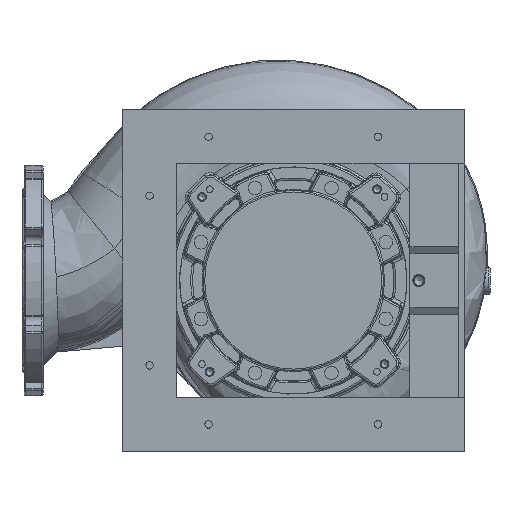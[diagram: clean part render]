
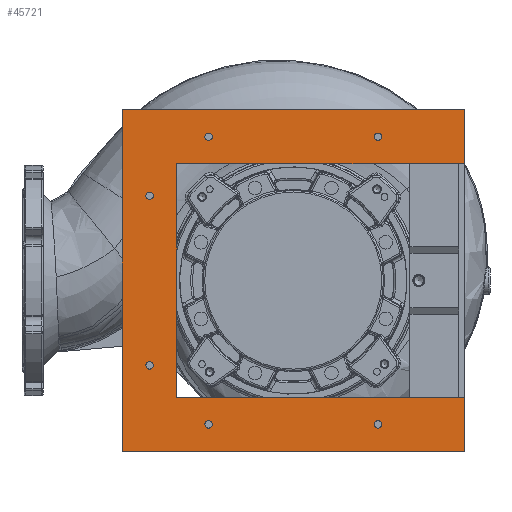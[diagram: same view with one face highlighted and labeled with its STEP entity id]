
A CAD part, front view. The second image highlights one B-rep face of the part: STEP entity #45721.
In plain terms, the highlighted planar face has unit normal (0, -1, 0).
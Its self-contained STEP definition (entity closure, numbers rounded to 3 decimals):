
#643 = CIRCLE ( 'NONE', #92111, 5.5 ) ;
#2505 = DIRECTION ( 'NONE',  ( 0., 0., -1. ) ) ;
#3228 = LINE ( 'NONE', #110618, #114989 ) ;
#4899 = DIRECTION ( 'NONE',  ( 1., 0., 0. ) ) ;
#4926 = EDGE_CURVE ( 'NONE', #72179, #86363, #145058, .T. ) ;
#7499 = ORIENTED_EDGE ( 'NONE', *, *, #65552, .F. ) ;
#7875 = EDGE_CURVE ( 'NONE', #15464, #72179, #76066, .T. ) ;
#9074 = EDGE_LOOP ( 'NONE', ( #16044 ) ) ;
#9565 = EDGE_LOOP ( 'NONE', ( #79649 ) ) ;
#10683 = LINE ( 'NONE', #90356, #34082 ) ;
#11156 = EDGE_CURVE ( 'NONE', #105550, #80376, #132371, .T. ) ;
#12609 = EDGE_CURVE ( 'NONE', #90436, #90436, #83458, .T. ) ;
#13448 = CARTESIAN_POINT ( 'NONE',  ( 252., 0., -252. ) ) ;
#13961 = FACE_BOUND ( 'NONE', #62158, .T. ) ;
#14471 = CARTESIAN_POINT ( 'NONE',  ( -252., 0., 0. ) ) ;
#15464 = VERTEX_POINT ( 'NONE', #32299 ) ;
#15956 = DIRECTION ( 'NONE',  ( 0., 0., 1. ) ) ;
#16044 = ORIENTED_EDGE ( 'NONE', *, *, #115570, .F. ) ;
#16767 = AXIS2_PLACEMENT_3D ( 'NONE', #136750, #138216, #101997 ) ;
#17933 = CARTESIAN_POINT ( 'NONE',  ( -212., 0., -130.5 ) ) ;
#19720 = VERTEX_POINT ( 'NONE', #145342 ) ;
#20371 = CIRCLE ( 'NONE', #16767, 5.5 ) ;
#21891 = EDGE_LOOP ( 'NONE', ( #61205 ) ) ;
#23196 = CIRCLE ( 'NONE', #135055, 5.5 ) ;
#25912 = CARTESIAN_POINT ( 'NONE',  ( -125., 0., -217.5 ) ) ;
#26584 = CARTESIAN_POINT ( 'NONE',  ( 0., 0., 172. ) ) ;
#28497 = CARTESIAN_POINT ( 'NONE',  ( 0., 0., -172. ) ) ;
#30226 = DIRECTION ( 'NONE',  ( 0., 0., -1. ) ) ;
#30708 = DIRECTION ( 'NONE',  ( 0., -1., 0. ) ) ;
#31887 = FACE_BOUND ( 'NONE', #21891, .T. ) ;
#32299 = CARTESIAN_POINT ( 'NONE',  ( 252., 0., 252. ) ) ;
#33529 = CARTESIAN_POINT ( 'NONE',  ( -125., 0., -212. ) ) ;
#34082 = VECTOR ( 'NONE', #135274, 1000. ) ;
#35545 = EDGE_LOOP ( 'NONE', ( #148531 ) ) ;
#36181 = DIRECTION ( 'NONE',  ( -1., 0., 0. ) ) ;
#36695 = DIRECTION ( 'NONE',  ( 0., -1., 0. ) ) ;
#37498 = ORIENTED_EDGE ( 'NONE', *, *, #59441, .F. ) ;
#38454 = EDGE_CURVE ( 'NONE', #57590, #105550, #93665, .T. ) ;
#38506 = AXIS2_PLACEMENT_3D ( 'NONE', #120430, #131938, #86083 ) ;
#39524 = EDGE_LOOP ( 'NONE', ( #78787 ) ) ;
#41778 = VECTOR ( 'NONE', #61503, 1000. ) ;
#42035 = DIRECTION ( 'NONE',  ( 0., 0., -1. ) ) ;
#45602 = CARTESIAN_POINT ( 'NONE',  ( -212., 0., 119.5 ) ) ;
#45721 = ADVANCED_FACE ( 'NONE', ( #13961, #31887, #66295, #145631, #80671, #91514, #50054 ), #57858, .F. ) ;
#47775 = DIRECTION ( 'NONE',  ( 0., 1., 0. ) ) ;
#47780 = EDGE_CURVE ( 'NONE', #86363, #118841, #3228, .T. ) ;
#49791 = EDGE_CURVE ( 'NONE', #80376, #15464, #98390, .T. ) ;
#50054 = FACE_OUTER_BOUND ( 'NONE', #138028, .T. ) ;
#53736 = EDGE_CURVE ( 'NONE', #124658, #124658, #105202, .T. ) ;
#54088 = CARTESIAN_POINT ( 'NONE',  ( 252., 0., -172. ) ) ;
#55530 = ORIENTED_EDGE ( 'NONE', *, *, #11156, .F. ) ;
#55758 = VECTOR ( 'NONE', #36181, 1000. ) ;
#56782 = DIRECTION ( 'NONE',  ( 0., -1., 0. ) ) ;
#57590 = VERTEX_POINT ( 'NONE', #126301 ) ;
#57858 = PLANE ( 'NONE',  #85176 ) ;
#59441 = EDGE_CURVE ( 'NONE', #148984, #57590, #10683, .T. ) ;
#59966 = CARTESIAN_POINT ( 'NONE',  ( 0., 0., -252. ) ) ;
#60340 = VECTOR ( 'NONE', #62950, 1000. ) ;
#60382 = CIRCLE ( 'NONE', #136102, 5.5 ) ;
#61205 = ORIENTED_EDGE ( 'NONE', *, *, #147872, .F. ) ;
#61252 = CARTESIAN_POINT ( 'NONE',  ( -125., 0., 212. ) ) ;
#61503 = DIRECTION ( 'NONE',  ( 0., 0., -1. ) ) ;
#62158 = EDGE_LOOP ( 'NONE', ( #7499 ) ) ;
#62950 = DIRECTION ( 'NONE',  ( -1., 0., 0. ) ) ;
#65552 = EDGE_CURVE ( 'NONE', #146311, #146311, #23196, .T. ) ;
#65691 = CARTESIAN_POINT ( 'NONE',  ( -252., 0., -252. ) ) ;
#66295 = FACE_BOUND ( 'NONE', #9565, .T. ) ;
#70379 = DIRECTION ( 'NONE',  ( 0., 0., -1. ) ) ;
#72179 = VERTEX_POINT ( 'NONE', #80788 ) ;
#74073 = ORIENTED_EDGE ( 'NONE', *, *, #38454, .F. ) ;
#75172 = ORIENTED_EDGE ( 'NONE', *, *, #49791, .F. ) ;
#76066 = LINE ( 'NONE', #95750, #41778 ) ;
#78575 = DIRECTION ( 'NONE',  ( 1., 0., 0. ) ) ;
#78787 = ORIENTED_EDGE ( 'NONE', *, *, #12609, .F. ) ;
#79649 = ORIENTED_EDGE ( 'NONE', *, *, #53736, .F. ) ;
#80376 = VERTEX_POINT ( 'NONE', #117021 ) ;
#80671 = FACE_BOUND ( 'NONE', #9074, .T. ) ;
#80788 = CARTESIAN_POINT ( 'NONE',  ( 252., 0., 172. ) ) ;
#82931 = CARTESIAN_POINT ( 'NONE',  ( 125., 0., -217.5 ) ) ;
#83458 = CIRCLE ( 'NONE', #135538, 5.5 ) ;
#85176 = AXIS2_PLACEMENT_3D ( 'NONE', #13448, #47775, #138505 ) ;
#85493 = VECTOR ( 'NONE', #15956, 1000. ) ;
#85792 = EDGE_CURVE ( 'NONE', #118841, #148984, #103654, .T. ) ;
#86083 = DIRECTION ( 'NONE',  ( 0., 0., -1. ) ) ;
#86363 = VERTEX_POINT ( 'NONE', #125623 ) ;
#88366 = VERTEX_POINT ( 'NONE', #82931 ) ;
#89182 = VECTOR ( 'NONE', #4899, 1000. ) ;
#90356 = CARTESIAN_POINT ( 'NONE',  ( 252., 0., 0. ) ) ;
#90436 = VERTEX_POINT ( 'NONE', #17933 ) ;
#91514 = FACE_BOUND ( 'NONE', #35545, .T. ) ;
#92111 = AXIS2_PLACEMENT_3D ( 'NONE', #33529, #56782, #70379 ) ;
#93665 = LINE ( 'NONE', #59966, #55758 ) ;
#95750 = CARTESIAN_POINT ( 'NONE',  ( 252., 0., 0. ) ) ;
#98390 = LINE ( 'NONE', #148094, #103840 ) ;
#101997 = DIRECTION ( 'NONE',  ( 0., 0., -1. ) ) ;
#103654 = LINE ( 'NONE', #28497, #89182 ) ;
#103840 = VECTOR ( 'NONE', #78575, 1000. ) ;
#104155 = CARTESIAN_POINT ( 'NONE',  ( -125., 0., 206.5 ) ) ;
#105057 = EDGE_CURVE ( 'NONE', #129922, #129922, #643, .T. ) ;
#105202 = CIRCLE ( 'NONE', #38506, 5.5 ) ;
#105550 = VERTEX_POINT ( 'NONE', #65691 ) ;
#105871 = CARTESIAN_POINT ( 'NONE',  ( 125., 0., -212. ) ) ;
#109079 = DIRECTION ( 'NONE',  ( 0., -1., 0. ) ) ;
#110618 = CARTESIAN_POINT ( 'NONE',  ( -172., 0., 0. ) ) ;
#114989 = VECTOR ( 'NONE', #42035, 1000. ) ;
#115570 = EDGE_CURVE ( 'NONE', #88366, #88366, #60382, .T. ) ;
#117021 = CARTESIAN_POINT ( 'NONE',  ( -252., 0., 252. ) ) ;
#117267 = ORIENTED_EDGE ( 'NONE', *, *, #85792, .F. ) ;
#118841 = VERTEX_POINT ( 'NONE', #149324 ) ;
#120430 = CARTESIAN_POINT ( 'NONE',  ( -212., 0., 125. ) ) ;
#124658 = VERTEX_POINT ( 'NONE', #45602 ) ;
#125623 = CARTESIAN_POINT ( 'NONE',  ( -172., 0., 172. ) ) ;
#126301 = CARTESIAN_POINT ( 'NONE',  ( 252., 0., -252. ) ) ;
#129922 = VERTEX_POINT ( 'NONE', #25912 ) ;
#131039 = ORIENTED_EDGE ( 'NONE', *, *, #4926, .F. ) ;
#131938 = DIRECTION ( 'NONE',  ( 0., -1., 0. ) ) ;
#132371 = LINE ( 'NONE', #14471, #85493 ) ;
#134119 = CARTESIAN_POINT ( 'NONE',  ( -212., 0., -125. ) ) ;
#134652 = ORIENTED_EDGE ( 'NONE', *, *, #7875, .F. ) ;
#135055 = AXIS2_PLACEMENT_3D ( 'NONE', #61252, #109079, #141873 ) ;
#135274 = DIRECTION ( 'NONE',  ( 0., 0., -1. ) ) ;
#135538 = AXIS2_PLACEMENT_3D ( 'NONE', #134119, #30708, #30226 ) ;
#136102 = AXIS2_PLACEMENT_3D ( 'NONE', #105871, #36695, #2505 ) ;
#136750 = CARTESIAN_POINT ( 'NONE',  ( 125., 0., 212. ) ) ;
#138028 = EDGE_LOOP ( 'NONE', ( #143202, #131039, #134652, #75172, #55530, #74073, #37498, #117267 ) ) ;
#138216 = DIRECTION ( 'NONE',  ( 0., -1., 0. ) ) ;
#138505 = DIRECTION ( 'NONE',  ( 0., 0., 1. ) ) ;
#141873 = DIRECTION ( 'NONE',  ( 0., 0., -1. ) ) ;
#143202 = ORIENTED_EDGE ( 'NONE', *, *, #47780, .F. ) ;
#145058 = LINE ( 'NONE', #26584, #60340 ) ;
#145342 = CARTESIAN_POINT ( 'NONE',  ( 125., 0., 206.5 ) ) ;
#145631 = FACE_BOUND ( 'NONE', #39524, .T. ) ;
#146311 = VERTEX_POINT ( 'NONE', #104155 ) ;
#147872 = EDGE_CURVE ( 'NONE', #19720, #19720, #20371, .T. ) ;
#148094 = CARTESIAN_POINT ( 'NONE',  ( 0., 0., 252. ) ) ;
#148531 = ORIENTED_EDGE ( 'NONE', *, *, #105057, .F. ) ;
#148984 = VERTEX_POINT ( 'NONE', #54088 ) ;
#149324 = CARTESIAN_POINT ( 'NONE',  ( -172., 0., -172. ) ) ;
